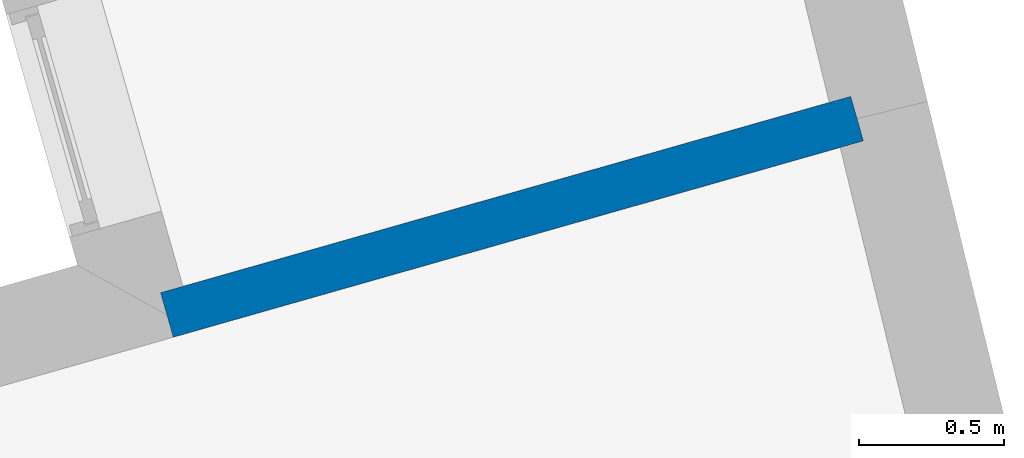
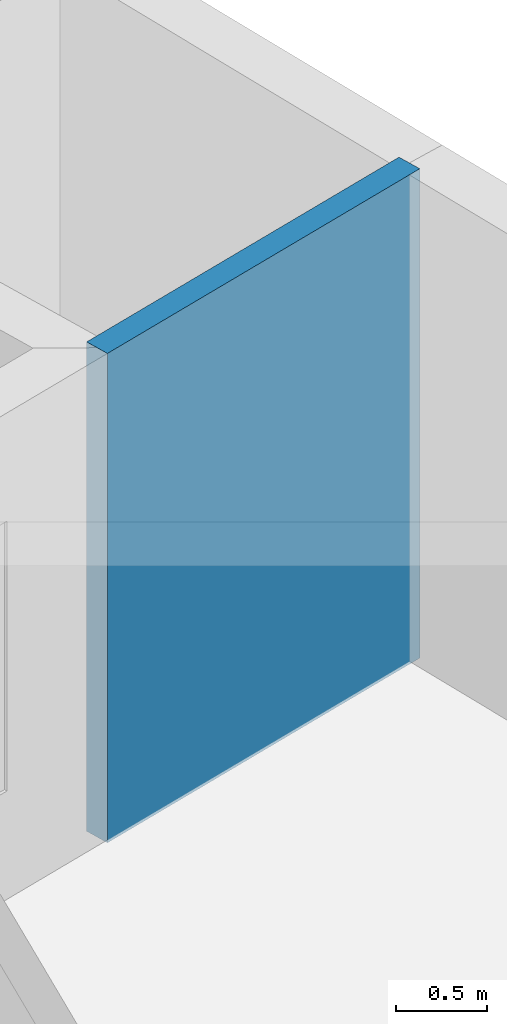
# One storey, part 7 of 14: 1 wall.
"""IFC4 building model written with IfcOpenShell, lengths in metres."""

import ifcopenshell
import ifcopenshell.guid

model = None  # the IFC model being written
_history = None  # IfcOwnerHistory: only IFC2X3 demands one
_inside = {}  # id of a spatial element -> (the spatial element, [elements in it])
_under = {}  # id of a project, library or spatial element -> (it, [spatial elements below it])
_declared = {}  # id of a project -> (the project, [libraries it declares])
_typed = {}  # id of a type object -> (the type object, [elements of that type])
_made_of = {}  # id of a material, layer set ... -> (it, [elements and type objects made of it])


def new_model(schema):
    """Start an empty IFC model of exactly this schema.

    Asked for "IFC4X3", IfcOpenShell would pick the latest addendum, in which some entities
    have other attributes; the version numbers below select the first issue.
    IFC2X3 requires an IfcOwnerHistory on every rooted entity: one is made here for all.
    """
    global model, _history
    if schema == "IFC4X3":
        model = ifcopenshell.file(schema_version=(4, 3, 0, 0))
    else:
        model = ifcopenshell.file(schema=schema)
    _inside.clear()
    _under.clear()
    _declared.clear()
    _typed.clear()
    _made_of.clear()
    _history = None
    if model.schema == "IFC2X3":
        org = make("IfcOrganization", Name="unknown")
        user = make(
            "IfcPersonAndOrganization",
            ThePerson=make("IfcPerson", FamilyName="unknown"),
            TheOrganization=org,
        )
        app = make(
            "IfcApplication",
            ApplicationDeveloper=org,
            Version="unknown",
            ApplicationFullName="unknown",
            ApplicationIdentifier="unknown",
        )
        _history = make(
            "IfcOwnerHistory",
            OwningUser=user,
            OwningApplication=app,
            ChangeAction="ADDED",
            CreationDate=0,
        )
    return model


def make(cls, **values):
    """One entity of the class cls with the attributes given. An attribute that is None is left unset."""
    return model.create_entity(
        cls, **{name: value for name, value in values.items() if value is not None}
    )


def rooted(cls, **values):
    """An entity with a GlobalId (a new one), such as an element, a storey or a relation."""
    return make(cls, GlobalId=ifcopenshell.guid.new(), OwnerHistory=_history, **values)


def si_unit(unit_type, name, prefix=None):
    """IfcSIUnit, for example si_unit("LENGTHUNIT", "METRE", prefix="MILLI")."""
    return make("IfcSIUnit", UnitType=unit_type, Prefix=prefix, Name=name)


def assignment(units):
    """IfcUnitAssignment: the units of a project."""
    return None if units is None else make("IfcUnitAssignment", Units=units)


def point(xyz):
    """IfcCartesianPoint."""
    return None if xyz is None else make("IfcCartesianPoint", Coordinates=xyz)


def direction(xyz):
    """IfcDirection."""
    return None if xyz is None else make("IfcDirection", DirectionRatios=xyz)


def frame(location, z_axis=None, x_axis=None):
    """IfcAxis2Placement3D, a coordinate frame: its origin and axes. An axis left out is left unset."""
    return make(
        "IfcAxis2Placement3D",
        Location=point(location),
        Axis=direction(z_axis),
        RefDirection=direction(x_axis),
    )


def origin_with_axes():
    """The frame at (0, 0, 0) with the z axis (0, 0, 1) and the x axis (1, 0, 0) written out."""
    return frame((0.0, 0.0, 0.0), z_axis=(0.0, 0.0, 1.0), x_axis=(1.0, 0.0, 0.0))


def place(relative_to, where):
    """IfcLocalPlacement: puts the frame where relative to a parent placement (None: the world)."""
    return make(
        "IfcLocalPlacement", PlacementRelTo=relative_to, RelativePlacement=where
    )


def context(
    kind, dimensions, precision=None, world=None, true_north=None, identifier=None
):
    """IfcGeometricRepresentationContext, for example the 3D "Model" context."""
    return make(
        "IfcGeometricRepresentationContext",
        ContextIdentifier=identifier,
        ContextType=kind,
        CoordinateSpaceDimension=dimensions,
        Precision=precision,
        WorldCoordinateSystem=world,
        TrueNorth=true_north,
    )


def subcontext(parent, identifier, kind, view, scale=None):
    """IfcGeometricRepresentationSubContext, for example "Body" below "Model"."""
    return make(
        "IfcGeometricRepresentationSubContext",
        ContextIdentifier=identifier,
        ContextType=kind,
        ParentContext=parent,
        TargetScale=scale,
        TargetView=view,
    )


def project(units=None, contexts=None):
    """IfcProject with its units and contexts."""
    return rooted(
        "IfcProject",
        Name="project",
        RepresentationContexts=contexts,
        UnitsInContext=assignment(units),
    )


def spatial(cls, under=None, at=None, **own):
    """A site, building, storey or space (cls), placed at a placement, below another one or the project."""
    s = rooted(cls, ObjectPlacement=at, **own)
    if under is not None:
        _under.setdefault(under.id(), (under, []))[1].append(s)
    return s


def polyline(points):
    """IfcPolyline through the points."""
    return make("IfcPolyline", Points=[point(p) for p in points])


def outline(outer, holes=None, kind="AREA"):
    """IfcArbitraryClosedProfileDef: a profile drawn as a closed curve; with holes, ...WithVoids."""
    if holes is None:
        return make("IfcArbitraryClosedProfileDef", ProfileType=kind, OuterCurve=outer)
    return make(
        "IfcArbitraryProfileDefWithVoids",
        ProfileType=kind,
        OuterCurve=outer,
        InnerCurves=holes,
    )


def extrude(swept, where, along, depth):
    """IfcExtrudedAreaSolid: the profile swept, set in the frame where, extruded along a direction by depth."""
    return make(
        "IfcExtrudedAreaSolid",
        SweptArea=swept,
        Position=where,
        ExtrudedDirection=direction(along),
        Depth=depth,
    )


def shape(context_of_items, identifier, shape_type, items):
    """IfcShapeRepresentation: the items that make up one representation, for example the "Body"."""
    return make(
        "IfcShapeRepresentation",
        ContextOfItems=context_of_items,
        RepresentationIdentifier=identifier,
        RepresentationType=shape_type,
        Items=items,
    )


def material(Name=None, Category=None):
    """IfcMaterial."""
    return make("IfcMaterial", Name=Name, Category=Category)


def layer(
    of_material, thickness, ventilated=None, Name=None, Category=None, Priority=None
):
    """IfcMaterialLayer: one layer of a wall or slab, of a material (None: an air gap)."""
    return make(
        "IfcMaterialLayer",
        Material=of_material,
        LayerThickness=thickness,
        IsVentilated=ventilated,
        Name=Name,
        Category=Category,
        Priority=Priority,
    )


def layer_set(layers, Name=None):
    """IfcMaterialLayerSet."""
    return make("IfcMaterialLayerSet", MaterialLayers=layers, LayerSetName=Name)


def layer_usage(for_layer_set, set_direction, sense, offset, extent=None):
    """IfcMaterialLayerSetUsage: how a layer set lies in its element."""
    return make(
        "IfcMaterialLayerSetUsage",
        ForLayerSet=for_layer_set,
        LayerSetDirection=set_direction,
        DirectionSense=sense,
        OffsetFromReferenceLine=offset,
        ReferenceExtent=extent,
    )


def made_of(thing, what):
    """Note that an element or type object is made of a material, layer set ...; save() writes the relation."""
    if what is not None:
        _made_of.setdefault(what.id(), (what, []))[1].append(thing)
    return thing


def type_object(cls, material=None, **own):
    """A type object (cls), such as IfcWallType, which elements share."""
    return made_of(rooted(cls, **own), material)


def element(
    cls,
    number,
    at=None,
    inside=None,
    cuts=None,
    type_object=None,
    material=None,
    context=None,
    identifier="Body",
    shape_type=None,
    held_by="IfcProductDefinitionShape",
    body=None,
    shapes=None,
    **own,
):
    """One element of the class cls, such as IfcWall. Its Tag is "e" and its number.

    at: its placement. inside: the storey or other place that contains it. cuts: it is an
    opening in that element (IfcRelVoidsElement). A single representation is given by context,
    identifier, shape_type and body (its items); several are given by shapes. held_by: the class
    of the entity that holds the representations. save() writes the other relations.
    """
    e = rooted(cls, Tag="e%d" % number, ObjectPlacement=at, **own)
    if body is not None:
        shapes = [shape(context, identifier, shape_type, body)]
    if shapes is not None:
        e.Representation = make(held_by, Representations=shapes)
    if inside is not None:
        _inside.setdefault(inside.id(), (inside, []))[1].append(e)
    if cuts is not None:
        rooted(
            "IfcRelVoidsElement", RelatingBuildingElement=cuts, RelatedOpeningElement=e
        )
    if type_object is not None:
        _typed.setdefault(type_object.id(), (type_object, []))[1].append(e)
    return made_of(e, material)


def aggregate(whole, parts):
    """IfcRelAggregates: a whole, such as a stair, and the parts it consists of."""
    return rooted("IfcRelAggregates", RelatingObject=whole, RelatedObjects=parts)


def save(model, path):
    """Write the relations noted so far, then the file.

    IfcRelAggregates (storeys below a building ...), IfcRelContainedInSpatialStructure (elements
    in a storey), IfcRelDefinesByType, IfcRelAssociatesMaterial and IfcRelDeclares: one each for
    every whole, place, type object, material and project.
    """
    for whole, parts in _under.values():
        aggregate(whole, parts)
    for where, things in _inside.values():
        rooted(
            "IfcRelContainedInSpatialStructure",
            RelatedElements=things,
            RelatingStructure=where,
        )
    for kind, things in _typed.values():
        rooted("IfcRelDefinesByType", RelatedObjects=things, RelatingType=kind)
    for what, things in _made_of.values():
        rooted("IfcRelAssociatesMaterial", RelatedObjects=things, RelatingMaterial=what)
    for by, libraries in _declared.values():
        rooted("IfcRelDeclares", RelatingContext=by, RelatedDefinitions=libraries)
    model.write(path)


model = new_model("IFC4")

# Units and contexts
model_context = context("Model", 3, world=origin_with_axes())
body_context = subcontext(model_context, "Body", "Model", "MODEL_VIEW")
ifc_project = project(units=[si_unit("PLANEANGLEUNIT", "RADIAN"), si_unit("MASSUNIT", "GRAM", prefix="KILO"), si_unit("FORCEUNIT", "NEWTON", prefix="KILO"), si_unit("LENGTHUNIT", "METRE"), si_unit("AREAUNIT", "SQUARE_METRE"), si_unit("VOLUMEUNIT", "CUBIC_METRE")], contexts=[model_context, model_context])

# Site, building, storey
site_placement = place(None, origin_with_axes())
site = spatial("IfcSite", under=ifc_project, at=site_placement, Name="Site plot-3", CompositionType="ELEMENT")
building_placement = place(None, origin_with_axes())
building = spatial("IfcBuilding", under=site, at=building_placement, Name="Building plot-3", CompositionType="ELEMENT")
storey_placement = place(None, origin_with_axes())
storey = spatial("IfcBuildingStorey", under=building, at=storey_placement, Name="plot-3 0", CompositionType="ELEMENT", Elevation=0.0)

# Wall
ifc_material = material(Name="Masonry")
ifc_layer = layer(ifc_material, 0.16, ventilated=False)
ifc_layer_set = layer_set([ifc_layer], Name="interior_0.08_0.08")
ifc_layer_usage = layer_usage(ifc_layer_set, "AXIS2", "POSITIVE", -0.08)
wall_type = type_object("IfcWallType", Name="interior_0.08_0.08", PredefinedType="SOLIDWALL", material=ifc_layer_set)
wall_placement = place(storey_placement, frame((16.3958062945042, 21.0642057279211, 0.0), z_axis=(0.0, 0.0, 1.0), x_axis=(-0.961841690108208, -0.273606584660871, 0.0)))
element("IfcWall", 1, at=wall_placement, inside=storey, type_object=wall_type, material=ifc_layer_usage, Name="interior", context=body_context, shape_type="SweptSolid", body=[
    extrude(outline(polyline([(5.53738427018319e-16, 0.0800000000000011), (-5.63535601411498e-16, -0.0800000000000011), (2.47842485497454, -0.0800000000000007), (2.47842485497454, 0.0800000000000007), (5.53738427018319e-16, 0.0800000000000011)])), origin_with_axes(), (0.0, 0.0, 1.0), 3.3),
])

save(model, "model.ifc")
